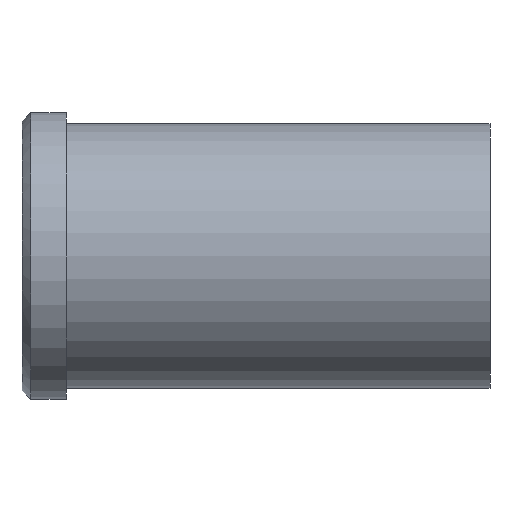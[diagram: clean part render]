
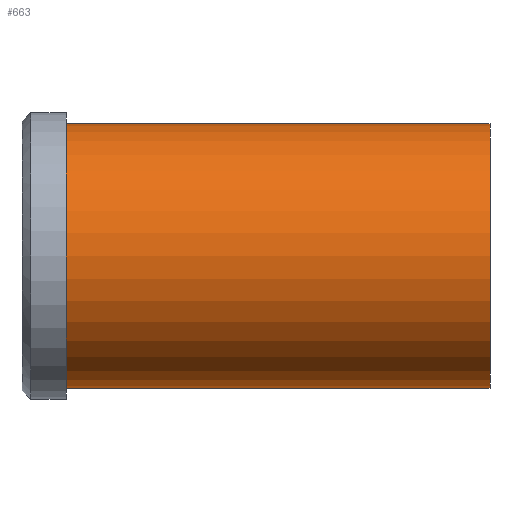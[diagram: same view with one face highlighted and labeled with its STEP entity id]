
A CAD part, front view. The second image highlights one B-rep face of the part: STEP entity #663.
In plain terms, the highlighted cylindrical face has radius 30 mm (diameter 60 mm), a partial arc.
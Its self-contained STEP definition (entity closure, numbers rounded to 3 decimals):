
#501=CARTESIAN_POINT('Vertex',(0.,0.,-30.)) ;
#506=CARTESIAN_POINT('Axis2P3D Location',(0.,0.,0.)) ;
#510=CARTESIAN_POINT('Vertex',(0.,-30.,0.)) ;
#513=CARTESIAN_POINT('Axis2P3D Location',(0.,0.,0.)) ;
#517=CARTESIAN_POINT('Vertex',(0.,0.,30.)) ;
#603=CARTESIAN_POINT('Line Origine',(96.,0.,30.)) ;
#607=CARTESIAN_POINT('Vertex',(96.,0.,30.)) ;
#621=CARTESIAN_POINT('Vertex',(96.,0.,-30.)) ;
#624=CARTESIAN_POINT('Line Origine',(96.,0.,-30.)) ;
#638=CARTESIAN_POINT('Axis2P3D Location',(96.,0.,0.)) ;
#643=CARTESIAN_POINT('Axis2P3D Location',(96.,0.,0.)) ;
#647=CARTESIAN_POINT('Vertex',(96.,-30.,0.)) ;
#650=CARTESIAN_POINT('Axis2P3D Location',(96.,0.,0.)) ;
#507=DIRECTION('Axis2P3D Direction',(1.,0.,-0.)) ;
#514=DIRECTION('Axis2P3D Direction',(1.,0.,-0.)) ;
#604=DIRECTION('Vector Direction',(-1.,0.,0.)) ;
#625=DIRECTION('Vector Direction',(-1.,0.,0.)) ;
#639=DIRECTION('Axis2P3D Direction',(-1.,-0.,-0.)) ;
#640=DIRECTION('Axis2P3D XDirection',(0.,0.,-1.)) ;
#644=DIRECTION('Axis2P3D Direction',(-1.,-0.,-0.)) ;
#651=DIRECTION('Axis2P3D Direction',(-1.,-0.,-0.)) ;
#508=AXIS2_PLACEMENT_3D('Circle Axis2P3D',#506,#507,$) ;
#515=AXIS2_PLACEMENT_3D('Circle Axis2P3D',#513,#514,$) ;
#641=AXIS2_PLACEMENT_3D('Cylinder Axis2P3D',#638,#639,#640) ;
#645=AXIS2_PLACEMENT_3D('Circle Axis2P3D',#643,#644,$) ;
#652=AXIS2_PLACEMENT_3D('Circle Axis2P3D',#650,#651,$) ;
#656=ORIENTED_EDGE('',*,*,#628,.T.) ;
#657=ORIENTED_EDGE('',*,*,#649,.F.) ;
#658=ORIENTED_EDGE('',*,*,#654,.F.) ;
#659=ORIENTED_EDGE('',*,*,#609,.T.) ;
#660=ORIENTED_EDGE('',*,*,#519,.T.) ;
#661=ORIENTED_EDGE('',*,*,#512,.T.) ;
#605=VECTOR('Line Direction',#604,1.) ;
#626=VECTOR('Line Direction',#625,1.) ;
#663=ADVANCED_FACE('353-50X106',(#662),#642,.T.) ;
#509=CIRCLE('generated circle',#508,30.) ;
#516=CIRCLE('generated circle',#515,30.) ;
#646=CIRCLE('generated circle',#645,30.) ;
#653=CIRCLE('generated circle',#652,30.) ;
#642=CYLINDRICAL_SURFACE('generated cylinder',#641,30.) ;
#512=EDGE_CURVE('',#511,#502,#509,.T.) ;
#519=EDGE_CURVE('',#518,#511,#516,.T.) ;
#609=EDGE_CURVE('',#608,#518,#606,.T.) ;
#628=EDGE_CURVE('',#502,#622,#627,.F.) ;
#649=EDGE_CURVE('',#648,#622,#646,.F.) ;
#654=EDGE_CURVE('',#608,#648,#653,.F.) ;
#655=EDGE_LOOP('',(#656,#657,#658,#659,#660,#661)) ;
#662=FACE_OUTER_BOUND('',#655,.T.) ;
#606=LINE('Line',#603,#605) ;
#627=LINE('Line',#624,#626) ;
#502=VERTEX_POINT('',#501) ;
#511=VERTEX_POINT('',#510) ;
#518=VERTEX_POINT('',#517) ;
#608=VERTEX_POINT('',#607) ;
#622=VERTEX_POINT('',#621) ;
#648=VERTEX_POINT('',#647) ;
